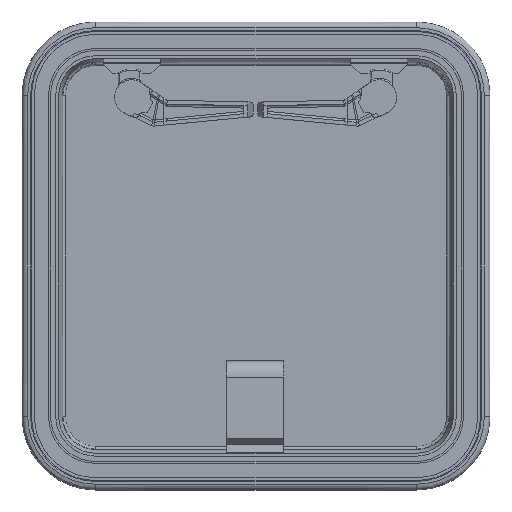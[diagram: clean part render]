
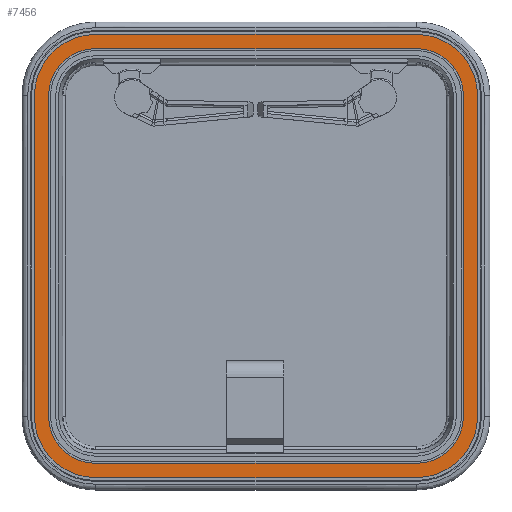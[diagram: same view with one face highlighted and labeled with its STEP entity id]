
A CAD part, top view. The second image highlights one B-rep face of the part: STEP entity #7456.
In plain terms, the highlighted planar face has unit normal (0, 0, 1) as drawn and (0, 0, -1) by its records, which use the part's own axes.
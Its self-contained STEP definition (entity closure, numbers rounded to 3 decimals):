
#1553=DIRECTION('',(1.,0.,0.));
#1554=VECTOR('',#1553,337.);
#1555=CARTESIAN_POINT('',(77.5,28.,-1.5));
#1556=LINE('',#1555,#1554);
#1561=CARTESIAN_POINT('',(77.5,77.5,-1.5));
#1562=DIRECTION('',(0.,0.,1.));
#1563=DIRECTION('',(-1.,0.,0.));
#1564=AXIS2_PLACEMENT_3D('',#1561,#1562,#1563);
#1574=DIRECTION('',(0.,-1.,0.));
#1575=VECTOR('',#1574,337.);
#1576=CARTESIAN_POINT('',(28.,414.5,-1.5));
#1577=LINE('',#1576,#1575);
#1582=CARTESIAN_POINT('',(77.5,414.5,-1.5));
#1583=DIRECTION('',(0.,0.,1.));
#1584=DIRECTION('',(0.,1.,0.));
#1585=AXIS2_PLACEMENT_3D('',#1582,#1583,#1584);
#1591=DIRECTION('',(-1.,0.,0.));
#1592=VECTOR('',#1591,337.);
#1593=CARTESIAN_POINT('',(414.5,464.,-1.5));
#1594=LINE('',#1593,#1592);
#1599=CARTESIAN_POINT('',(414.5,414.5,-1.5));
#1600=DIRECTION('',(0.,0.,1.));
#1601=DIRECTION('',(1.,0.,0.));
#1602=AXIS2_PLACEMENT_3D('',#1599,#1600,#1601);
#1608=DIRECTION('',(0.,1.,0.));
#1609=VECTOR('',#1608,337.);
#1610=CARTESIAN_POINT('',(464.,77.5,-1.5));
#1611=LINE('',#1610,#1609);
#1616=CARTESIAN_POINT('',(414.5,77.5,-1.5));
#1617=DIRECTION('',(0.,0.,1.));
#1618=DIRECTION('',(0.,-1.,0.));
#1619=AXIS2_PLACEMENT_3D('',#1616,#1617,#1618);
#1621=DIRECTION('',(1.,0.,0.));
#1622=VECTOR('',#1621,337.);
#1623=CARTESIAN_POINT('',(77.5,13.,-1.5));
#1624=LINE('',#1623,#1622);
#1625=CARTESIAN_POINT('',(414.5,77.5,-1.5));
#1626=DIRECTION('',(0.,0.,1.));
#1627=DIRECTION('',(0.,-1.,0.));
#1628=AXIS2_PLACEMENT_3D('',#1625,#1626,#1627);
#1630=DIRECTION('',(0.,1.,0.));
#1631=VECTOR('',#1630,337.);
#1632=CARTESIAN_POINT('',(479.,77.5,-1.5));
#1633=LINE('',#1632,#1631);
#1634=CARTESIAN_POINT('',(414.5,414.5,-1.5));
#1635=DIRECTION('',(0.,0.,1.));
#1636=DIRECTION('',(1.,0.,0.));
#1637=AXIS2_PLACEMENT_3D('',#1634,#1635,#1636);
#1639=DIRECTION('',(-1.,0.,0.));
#1640=VECTOR('',#1639,337.);
#1641=CARTESIAN_POINT('',(414.5,479.,-1.5));
#1642=LINE('',#1641,#1640);
#1643=CARTESIAN_POINT('',(77.5,414.5,-1.5));
#1644=DIRECTION('',(0.,0.,1.));
#1645=DIRECTION('',(0.,1.,0.));
#1646=AXIS2_PLACEMENT_3D('',#1643,#1644,#1645);
#1648=DIRECTION('',(0.,-1.,0.));
#1649=VECTOR('',#1648,337.);
#1650=CARTESIAN_POINT('',(13.,414.5,-1.5));
#1651=LINE('',#1650,#1649);
#1652=CARTESIAN_POINT('',(77.5,77.5,-1.5));
#1653=DIRECTION('',(0.,0.,1.));
#1654=DIRECTION('',(-1.,0.,0.));
#1655=AXIS2_PLACEMENT_3D('',#1652,#1653,#1654);
#2037=CARTESIAN_POINT('',(77.5,13.,-1.5));
#2039=VERTEX_POINT('',#2037);
#2040=CARTESIAN_POINT('',(77.5,28.,-1.5));
#2042=VERTEX_POINT('',#2040);
#2078=CARTESIAN_POINT('',(414.5,13.,-1.5));
#2080=VERTEX_POINT('',#2078);
#2081=CARTESIAN_POINT('',(414.5,28.,-1.5));
#2083=VERTEX_POINT('',#2081);
#2119=CARTESIAN_POINT('',(479.,77.5,-1.5));
#2121=VERTEX_POINT('',#2119);
#2122=CARTESIAN_POINT('',(464.,77.5,-1.5));
#2124=VERTEX_POINT('',#2122);
#2160=CARTESIAN_POINT('',(479.,414.5,-1.5));
#2162=VERTEX_POINT('',#2160);
#2163=CARTESIAN_POINT('',(464.,414.5,-1.5));
#2165=VERTEX_POINT('',#2163);
#2201=CARTESIAN_POINT('',(414.5,479.,-1.5));
#2203=VERTEX_POINT('',#2201);
#2204=CARTESIAN_POINT('',(414.5,464.,-1.5));
#2206=VERTEX_POINT('',#2204);
#2242=CARTESIAN_POINT('',(77.5,479.,-1.5));
#2244=VERTEX_POINT('',#2242);
#2245=CARTESIAN_POINT('',(77.5,464.,-1.5));
#2247=VERTEX_POINT('',#2245);
#2283=CARTESIAN_POINT('',(13.,414.5,-1.5));
#2285=VERTEX_POINT('',#2283);
#2286=CARTESIAN_POINT('',(28.,414.5,-1.5));
#2288=VERTEX_POINT('',#2286);
#2324=CARTESIAN_POINT('',(13.,77.5,-1.5));
#2326=VERTEX_POINT('',#2324);
#2327=CARTESIAN_POINT('',(28.,77.5,-1.5));
#2329=VERTEX_POINT('',#2327);
#7423=CARTESIAN_POINT('',(246.,20.5,-1.5));
#7424=DIRECTION('',(0.,0.,1.));
#7425=DIRECTION('',(0.,1.,0.));
#7426=AXIS2_PLACEMENT_3D('',#7423,#7424,#7425);
#7427=PLANE('',#7426);
#7429=ORIENTED_EDGE('',*,*,#7428,.T.);
#7431=ORIENTED_EDGE('',*,*,#7430,.T.);
#7433=ORIENTED_EDGE('',*,*,#7432,.T.);
#7435=ORIENTED_EDGE('',*,*,#7434,.T.);
#7437=ORIENTED_EDGE('',*,*,#7436,.T.);
#7439=ORIENTED_EDGE('',*,*,#7438,.T.);
#7441=ORIENTED_EDGE('',*,*,#7440,.T.);
#7443=ORIENTED_EDGE('',*,*,#7442,.T.);
#7444=EDGE_LOOP('',(#7429,#7431,#7433,#7435,#7437,#7439,#7441,#7443));
#7445=FACE_OUTER_BOUND('',#7444,.F.);
#7446=ORIENTED_EDGE('',*,*,#7333,.F.);
#7447=ORIENTED_EDGE('',*,*,#7347,.F.);
#7448=ORIENTED_EDGE('',*,*,#7361,.F.);
#7449=ORIENTED_EDGE('',*,*,#7375,.F.);
#7450=ORIENTED_EDGE('',*,*,#7389,.F.);
#7451=ORIENTED_EDGE('',*,*,#7403,.F.);
#7452=ORIENTED_EDGE('',*,*,#7416,.F.);
#7453=ORIENTED_EDGE('',*,*,#7318,.F.);
#7454=EDGE_LOOP('',(#7446,#7447,#7448,#7449,#7450,#7451,#7452,#7453));
#7455=FACE_BOUND('',#7454,.F.);
#7456=ADVANCED_FACE('',(#7445,#7455),#7427,.F.);
#1565=CIRCLE('',#1564,49.5);
#1586=CIRCLE('',#1585,49.5);
#1603=CIRCLE('',#1602,49.5);
#1620=CIRCLE('',#1619,49.5);
#1629=CIRCLE('',#1628,64.5);
#1638=CIRCLE('',#1637,64.5);
#1647=CIRCLE('',#1646,64.5);
#1656=CIRCLE('',#1655,64.5);
#7318=EDGE_CURVE('',#2042,#2083,#1556,.T.);
#7333=EDGE_CURVE('',#2329,#2042,#1565,.T.);
#7347=EDGE_CURVE('',#2288,#2329,#1577,.T.);
#7361=EDGE_CURVE('',#2247,#2288,#1586,.T.);
#7375=EDGE_CURVE('',#2206,#2247,#1594,.T.);
#7389=EDGE_CURVE('',#2165,#2206,#1603,.T.);
#7403=EDGE_CURVE('',#2124,#2165,#1611,.T.);
#7416=EDGE_CURVE('',#2083,#2124,#1620,.T.);
#7428=EDGE_CURVE('',#2039,#2080,#1624,.T.);
#7430=EDGE_CURVE('',#2080,#2121,#1629,.T.);
#7432=EDGE_CURVE('',#2121,#2162,#1633,.T.);
#7434=EDGE_CURVE('',#2162,#2203,#1638,.T.);
#7436=EDGE_CURVE('',#2203,#2244,#1642,.T.);
#7438=EDGE_CURVE('',#2244,#2285,#1647,.T.);
#7440=EDGE_CURVE('',#2285,#2326,#1651,.T.);
#7442=EDGE_CURVE('',#2326,#2039,#1656,.T.);
